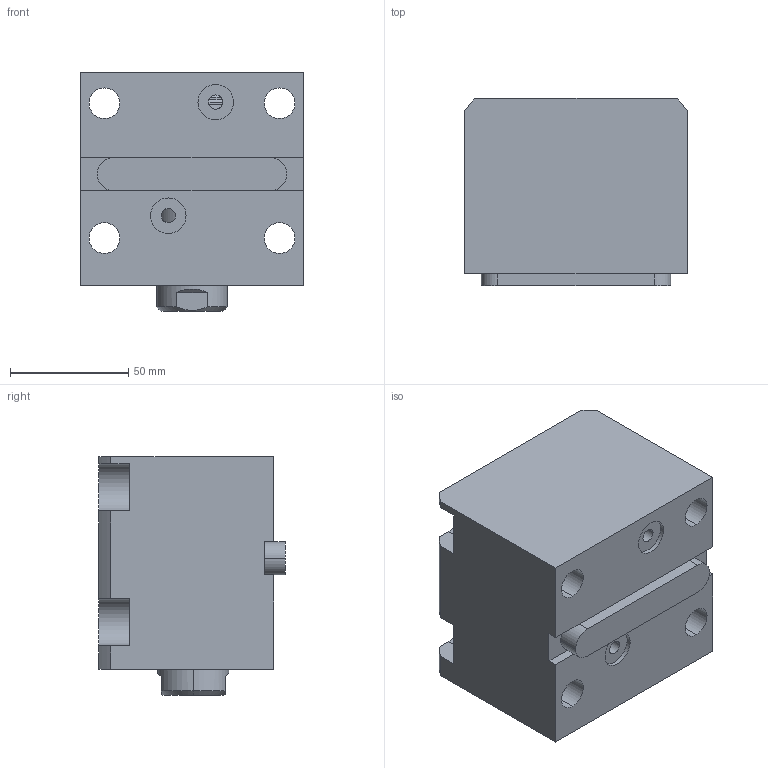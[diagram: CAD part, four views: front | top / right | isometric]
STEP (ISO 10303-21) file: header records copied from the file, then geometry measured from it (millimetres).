
FILE_DESCRIPTION (( 'STEP AP203' ), '1' );
FILE_NAME ('CHTB-LAM50-30N.STEP', '2018-05-23T10:13:18', ( '' ), ( '' ), 'SwSTEP 2.0', 'SolidWorks 2015', '' );
FILE_SCHEMA (( 'CONFIG_CONTROL_DESIGN' ));
Length unit declared in the file: millimetre
Products named in the file (4): CHTB-LAM50-30N; 掛极LAM50-30N; CHTM-SDMA50QG; 活塞杆LA50-30N
Assembly tree (3 placements, depth 2):
  CHTB-LAM50-30N
    掛极LAM50-30N
    活塞杆LA50-30N
    CHTM-SDMA50QG
Bounding box: 94 x 79 x 101 mm (x, y, z)
Volume: 534113.3 mm3; surface area: 100586.9 mm2
Topology: 3 solids, 3 shells, 192 faces, 524 edges, 347 vertices
Faces by surface type: cylinder 96, plane 51, torus 16, cone 15, bspline 14
Entity records: 11011 total; most frequent: CARTESIAN_POINT 5956, ORIENTED_EDGE 1036, DIRECTION 908, EDGE_CURVE 518, AXIS2_PLACEMENT_3D 356, VERTEX_POINT 347, EDGE_LOOP 221, VECTOR 196
